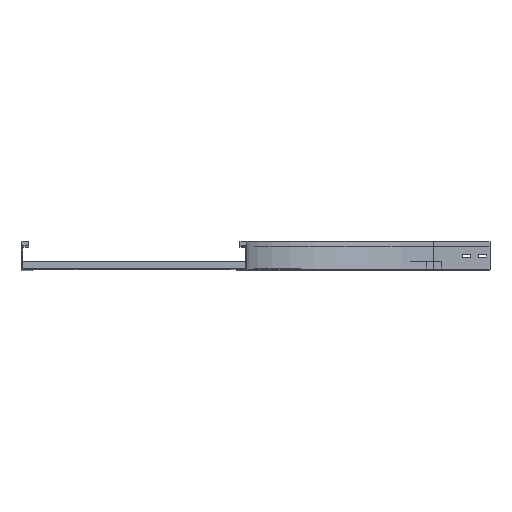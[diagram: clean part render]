
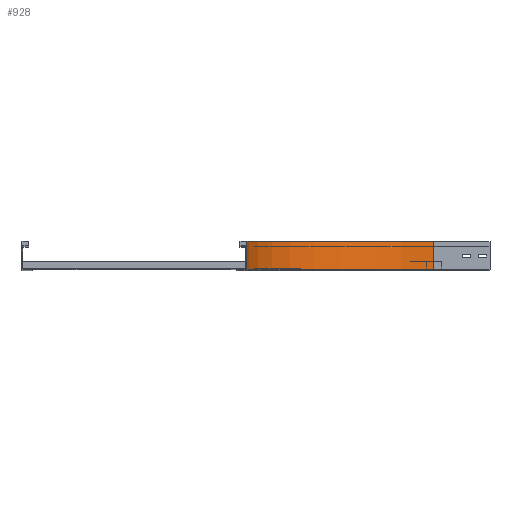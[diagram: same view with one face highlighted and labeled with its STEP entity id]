
A CAD part, top view. The second image highlights one B-rep face of the part: STEP entity #928.
In plain terms, the highlighted cylindrical face has radius 500 mm (diameter 1000 mm), a partial arc.
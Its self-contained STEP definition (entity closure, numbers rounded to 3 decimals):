
#131 = ORIENTED_EDGE ( 'NONE', *, *, #4244, .T. ) ;
#221 = VERTEX_POINT ( 'NONE', #4056 ) ;
#234 = LINE ( 'NONE', #3515, #1083 ) ;
#246 = CIRCLE ( 'NONE', #3229, 500. ) ;
#326 = DIRECTION ( 'NONE',  ( 0., 1., 0. ) ) ;
#385 = CARTESIAN_POINT ( 'NONE',  ( 500., 0., -150. ) ) ;
#413 = DIRECTION ( 'NONE',  ( 0., -1., 0. ) ) ;
#446 = AXIS2_PLACEMENT_3D ( 'NONE', #1384, #1721, #3700 ) ;
#633 = CARTESIAN_POINT ( 'NONE',  ( 500., 75., -650. ) ) ;
#696 = VERTEX_POINT ( 'NONE', #1490 ) ;
#873 = VERTEX_POINT ( 'NONE', #4243 ) ;
#928 = ADVANCED_FACE ( 'NONE', ( #3374 ), #1334, .F. ) ;
#1083 = VECTOR ( 'NONE', #2189, 1000. ) ;
#1094 = CARTESIAN_POINT ( 'NONE',  ( 500., 75., -150. ) ) ;
#1334 = CYLINDRICAL_SURFACE ( 'NONE', #446, 500. ) ;
#1384 = CARTESIAN_POINT ( 'NONE',  ( 500., 0., -150. ) ) ;
#1464 = EDGE_LOOP ( 'NONE', ( #3927, #3682, #131, #3042 ) ) ;
#1490 = CARTESIAN_POINT ( 'NONE',  ( 0., 75., -150. ) ) ;
#1714 = LINE ( 'NONE', #4023, #3242 ) ;
#1721 = DIRECTION ( 'NONE',  ( 0., -1., 0. ) ) ;
#1864 = EDGE_CURVE ( 'NONE', #873, #3670, #1714, .T. ) ;
#1912 = CIRCLE ( 'NONE', #2477, 500. ) ;
#2102 = DIRECTION ( 'NONE',  ( -1., 0., 0. ) ) ;
#2189 = DIRECTION ( 'NONE',  ( 0., 1., 0. ) ) ;
#2477 = AXIS2_PLACEMENT_3D ( 'NONE', #385, #413, #2102 ) ;
#3042 = ORIENTED_EDGE ( 'NONE', *, *, #1864, .T. ) ;
#3229 = AXIS2_PLACEMENT_3D ( 'NONE', #1094, #4090, #3763 ) ;
#3242 = VECTOR ( 'NONE', #326, 1000. ) ;
#3297 = EDGE_CURVE ( 'NONE', #696, #3670, #246, .T. ) ;
#3374 = FACE_OUTER_BOUND ( 'NONE', #1464, .T. ) ;
#3515 = CARTESIAN_POINT ( 'NONE',  ( 0., 0., -150. ) ) ;
#3670 = VERTEX_POINT ( 'NONE', #633 ) ;
#3682 = ORIENTED_EDGE ( 'NONE', *, *, #3954, .F. ) ;
#3700 = DIRECTION ( 'NONE',  ( 0., 0., -1. ) ) ;
#3763 = DIRECTION ( 'NONE',  ( -1., 0., 0. ) ) ;
#3927 = ORIENTED_EDGE ( 'NONE', *, *, #3297, .F. ) ;
#3954 = EDGE_CURVE ( 'NONE', #221, #696, #234, .T. ) ;
#4023 = CARTESIAN_POINT ( 'NONE',  ( 500., 0., -650. ) ) ;
#4056 = CARTESIAN_POINT ( 'NONE',  ( 0., 0., -150. ) ) ;
#4090 = DIRECTION ( 'NONE',  ( 0., -1., 0. ) ) ;
#4243 = CARTESIAN_POINT ( 'NONE',  ( 500., 0., -650. ) ) ;
#4244 = EDGE_CURVE ( 'NONE', #221, #873, #1912, .T. ) ;
